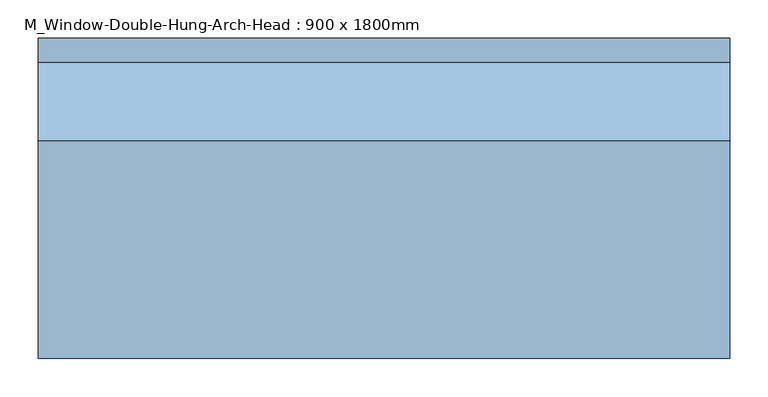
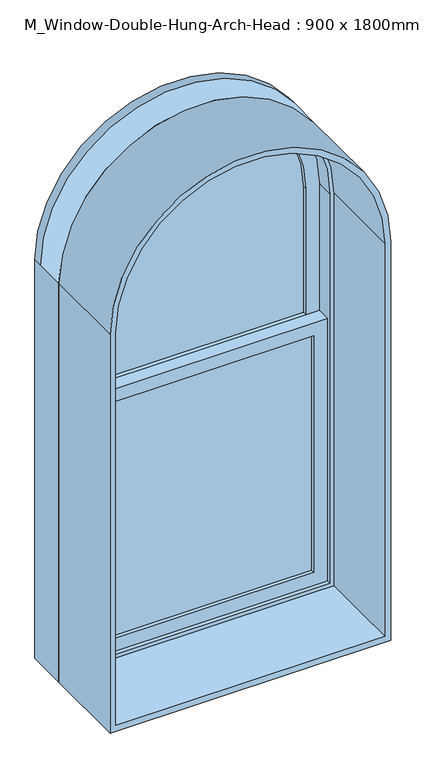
"""IFC4 building model written with IfcOpenShell, lengths in millimetres: window geometry, M_Window-Double-Hung-Arch-Head : 900 x 1800mm."""

from ifc_helpers import new_model, si_unit, point, frame, frame_2d, origin, place, context, project, spatial, polyline, circle_curve, trimmed, segment, composite_curve, outline, extrude, source, transform, mapped, element, save
from ifc_brep_helpers import plane_surface, cylinder_surface, revolved_surface, advanced_brep


def m_window_double_hung_arch_head_900_x_1800mm_510cd141(model_context):
    return source(origin(), model_context, "Body", "SolidModel", [
        advanced_brep(
        [(-418.25, 186.3, 2264.4), (-418.25, 186.3, 1792.175), (-418.25, 141.85, 1792.175), (-418.25, 141.85, 2264.4), (-418.25, 173.6, 2264.4), (-373.8, 141.85, 2264.4), (-373.8, 141.85, 1836.625), (-373.8, 186.3, 1836.625), (-373.8, 186.3, 2264.4), (-373.8, 173.6, 2264.4), (418.25, 186.3, 1792.175), (418.25, 141.85, 1792.175), (373.8, 141.85, 1836.625), (373.8, 186.3, 1836.625), (418.25, 186.3, 2264.4), (418.25, 173.6, 2264.4), (418.25, 141.85, 2264.4), (373.8, 141.85, 2264.4), (373.8, 173.6, 2264.4), (373.8, 186.3, 2264.4), (0.0, 173.6, 2682.65)],
        [
            (0, 1),
            (1, 2),
            (2, 3),
            (3, 4),
            (4, 0),
            (5, 6),
            (6, 7),
            (7, 8),
            (8, 9),
            (9, 5),
            (1, 10),
            (10, 11),
            (11, 2),
            (6, 12),
            (12, 13),
            (13, 7),
            (10, 14),
            (14, 15),
            (15, 16),
            (16, 11),
            (12, 17),
            (17, 18),
            (18, 19),
            (19, 13),
            (0, 14, circle_curve(frame((0.0, 186.3, 2264.4), z_axis=(0.0, 1.0, 0.0), x_axis=(-1.0, 0.0, 0.0)), 418.25)),
            (19, 8, circle_curve(frame((0.0, 186.3, 2264.4), z_axis=(0.0, -1.0, 0.0), x_axis=(-1.0, 0.0, 0.0)), 373.8)),
            (3, 16, circle_curve(frame((0.0, 141.85, 2264.4), z_axis=(0.0, 1.0, 0.0), x_axis=(1.0, 0.0, 0.0)), 418.25)),
            (15, 20, circle_curve(frame((0.0, 173.6, 2264.4), z_axis=(0.0, -1.0, 0.0), x_axis=(1.0, 0.0, 0.0)), 418.25)),
            (20, 4, circle_curve(frame((0.0, 173.6, 2264.4), z_axis=(0.0, -1.0, 0.0), x_axis=(1.0, 0.0, 0.0)), 418.25)),
            (5, 17, circle_curve(frame((0.0, 141.85, 2264.4), z_axis=(0.0, 1.0, 0.0), x_axis=(1.0, 0.0, 0.0)), 373.8)),
            (9, 18, circle_curve(frame((0.0, 173.6, 2264.4), z_axis=(0.0, 1.0, 0.0), x_axis=(1.0, 0.0, 0.0)), 373.8)),
        ],
        [
            plane_surface(frame((-418.25, 186.3, 2264.4), z_axis=(-1.0, 0.0, 0.0), x_axis=(0.0, 0.0, -1.0))),
            plane_surface(frame((-373.8, 141.85, 2264.4), z_axis=(1.0, 0.0, 0.0), x_axis=(0.0, 0.0, -1.0))),
            plane_surface(frame((-418.25, 186.3, 1792.175), z_axis=(0.0, 0.0, -1.0), x_axis=(1.0, 0.0, 0.0))),
            plane_surface(frame((-373.8, 141.85, 1836.625), z_axis=(0.0, 0.0, 1.0), x_axis=(1.0, 0.0, 0.0))),
            plane_surface(frame((418.25, 186.3, 1792.175), z_axis=(1.0, 0.0, 0.0), x_axis=(0.0, 0.0, 1.0))),
            plane_surface(frame((373.8, 141.85, 1836.625), z_axis=(-1.0, 0.0, 0.0), x_axis=(0.0, 0.0, 1.0))),
            plane_surface(frame((0.0, 186.3, 2264.4), z_axis=(0.0, 1.0, 0.0), x_axis=(1.0, 0.0, 0.0))),
            cylinder_surface(frame((0.0, 186.3, 2264.4), z_axis=(0.0, -1.0, 0.0), x_axis=(1.0, 0.0, 0.0)), 418.25),
            plane_surface(frame((0.0, 141.85, 2264.4), z_axis=(0.0, -1.0, 0.0), x_axis=(1.0, 0.0, 0.0))),
            revolved_surface(polyline([(373.8, 141.85, 2264.4), (373.8, 173.6, 2264.4)]), (0.0, 186.3, 2264.4), (0.0, -1.0, 0.0)),
            cylinder_surface(frame((0.0, 186.3, 2264.4), z_axis=(0.0, 1.0, 0.0), x_axis=(-1.0, 0.0, 0.0)), 418.25),
            revolved_surface(polyline([(-373.8, 186.3, 2264.4), (-373.8, 173.6, 2264.4)]), (0.0, 186.3, 2264.4), (0.0, 1.0, 0.0)),
        ],
        [
            (0, [[1, 2, 3, 4, 5]]),
            (1, [[6, 7, 8, 9, 10]]),
            (2, [[-2, 11, 12, 13]]),
            (3, [[-7, 14, 15, 16]]),
            (4, [[-12, 17, 18, 19, 20]]),
            (5, [[-15, 21, 22, 23, 24]]),
            (6, [[-1, 25, -17, -11], [-24, 26, -8, -16]]),
            (7, [[27, -19, 28, 29, -4]]),
            (8, [[-3, -13, -20, -27], [-6, 30, -21, -14]]),
            (9, [[-30, -10, 31, -22]]),
            (10, [[-25, -5, -29, -28, -18]]),
            (11, [[-26, -23, -31, -9]]),
        ],
    ),
        advanced_brep(
        [(-450.0, 218.05, 2264.4), (-450.0, 218.05, 914.4), (-450.0, 84.7, 914.4), (-450.0, 84.7, 2264.4), (-450.0, 186.3, 2264.4), (-418.25, 84.7, 2264.4), (-418.25, 84.7, 946.15), (-418.25, 218.05, 946.15), (-418.25, 218.05, 2264.4), (-418.25, 186.3, 2264.4), (450.0, 218.05, 914.4), (450.0, 84.7, 914.4), (418.25, 84.7, 946.15), (418.25, 218.05, 946.15), (450.0, 218.05, 2264.4), (450.0, 186.3, 2264.4), (450.0, 84.7, 2264.4), (418.25, 84.7, 2264.4), (418.25, 186.3, 2264.4), (418.25, 218.05, 2264.4), (0.0, 186.3, 2714.4)],
        [
            (0, 1),
            (1, 2),
            (2, 3),
            (3, 4),
            (4, 0),
            (5, 6),
            (6, 7),
            (7, 8),
            (8, 9),
            (9, 5),
            (1, 10),
            (10, 11),
            (11, 2),
            (6, 12),
            (12, 13),
            (13, 7),
            (10, 14),
            (14, 15),
            (15, 16),
            (16, 11),
            (12, 17),
            (17, 18),
            (18, 19),
            (19, 13),
            (3, 16, circle_curve(frame((0.0, 84.7, 2264.4), z_axis=(0.0, 1.0, 0.0), x_axis=(1.0, 0.0, 0.0)), 450.0)),
            (15, 20, circle_curve(frame((0.0, 186.3, 2264.4), z_axis=(0.0, -1.0, 0.0), x_axis=(1.0, 0.0, 0.0)), 450.0)),
            (20, 4, circle_curve(frame((0.0, 186.3, 2264.4), z_axis=(0.0, -1.0, 0.0), x_axis=(1.0, 0.0, 0.0)), 450.0)),
            (5, 17, circle_curve(frame((0.0, 84.7, 2264.4), z_axis=(0.0, 1.0, 0.0), x_axis=(1.0, 0.0, 0.0)), 418.25)),
            (9, 18, circle_curve(frame((0.0, 186.3, 2264.4), z_axis=(0.0, 1.0, 0.0), x_axis=(1.0, 0.0, 0.0)), 418.25)),
            (0, 14, circle_curve(frame((0.0, 218.05, 2264.4), z_axis=(0.0, 1.0, 0.0), x_axis=(-1.0, 0.0, 0.0)), 450.0)),
            (19, 8, circle_curve(frame((0.0, 218.05, 2264.4), z_axis=(0.0, -1.0, 0.0), x_axis=(-1.0, 0.0, 0.0)), 418.25)),
        ],
        [
            plane_surface(frame((-450.0, 218.05, 2264.4), z_axis=(-1.0, 0.0, 0.0), x_axis=(0.0, 0.0, -1.0))),
            plane_surface(frame((-418.25, 84.7, 2264.4), z_axis=(1.0, 0.0, 0.0), x_axis=(0.0, 0.0, -1.0))),
            plane_surface(frame((-450.0, 218.05, 914.4), z_axis=(0.0, 0.0, -1.0), x_axis=(1.0, 0.0, 0.0))),
            plane_surface(frame((-418.25, 84.7, 946.15), z_axis=(0.0, 0.0, 1.0), x_axis=(1.0, 0.0, 0.0))),
            plane_surface(frame((450.0, 218.05, 914.4), z_axis=(1.0, 0.0, 0.0), x_axis=(0.0, 0.0, 1.0))),
            plane_surface(frame((418.25, 84.7, 946.15), z_axis=(-1.0, 0.0, 0.0), x_axis=(0.0, 0.0, 1.0))),
            cylinder_surface(frame((0.0, 186.3, 2264.4), z_axis=(0.0, -1.0, 0.0), x_axis=(1.0, 0.0, 0.0)), 450.0),
            plane_surface(frame((0.0, 84.7, 2264.4), z_axis=(0.0, -1.0, 0.0), x_axis=(1.0, 0.0, 0.0))),
            revolved_surface(polyline([(418.25, 84.7, 2264.4), (418.25, 186.3, 2264.4)]), (0.0, 186.3, 2264.4), (0.0, -1.0, 0.0)),
            plane_surface(frame((0.0, 218.05, 2264.4), z_axis=(0.0, 1.0, 0.0), x_axis=(1.0, 0.0, 0.0))),
            cylinder_surface(frame((0.0, 218.05, 2264.4), z_axis=(0.0, 1.0, 0.0), x_axis=(-1.0, 0.0, 0.0)), 450.0),
            revolved_surface(polyline([(-418.25, 218.05, 2264.4), (-418.25, 186.3, 2264.4)]), (0.0, 218.05, 2264.4), (0.0, 1.0, 0.0)),
        ],
        [
            (0, [[1, 2, 3, 4, 5]]),
            (1, [[6, 7, 8, 9, 10]]),
            (2, [[-2, 11, 12, 13]]),
            (3, [[-7, 14, 15, 16]]),
            (4, [[-12, 17, 18, 19, 20]]),
            (5, [[-15, 21, 22, 23, 24]]),
            (6, [[25, -19, 26, 27, -4]]),
            (7, [[-3, -13, -20, -25], [-6, 28, -21, -14]]),
            (8, [[-28, -10, 29, -22]]),
            (9, [[-1, 30, -17, -11], [-24, 31, -8, -16]]),
            (10, [[-30, -5, -27, -26, -18]]),
            (11, [[-31, -23, -29, -9]]),
        ],
    ),
        extrude(outline(composite_curve([segment(polyline([(2264.4, -373.8), (1836.625, -373.8), (1836.625, 373.8), (2264.4, 373.8)]), True, "CONTINUOUS"), segment(trimmed(circle_curve(frame_2d((2264.4, 0.0)), 373.8), [point((2264.4, 373.8))], [point((2264.4, -373.8))], False, "CARTESIAN"), True, "CONTINUOUS")], self_intersect=False)), frame((0.0, 154.55, 0.0), z_axis=(0.0, 1.0, 0.0), x_axis=(0.0, 0.0, 1.0)), (0.0, 0.0, 1.0), 6.35),
        extrude(outline(composite_curve([segment(polyline([(2264.4, -373.8), (1836.625, -373.8), (1836.625, 373.8), (2264.4, 373.8)]), True, "CONTINUOUS"), segment(trimmed(circle_curve(frame_2d((2264.4, 0.0)), 373.8), [point((2264.4, 373.8))], [point((2264.4, -373.8))], False, "CARTESIAN"), True, "CONTINUOUS")], self_intersect=False)), frame((0.0, 167.25, 0.0), z_axis=(0.0, 1.0, 0.0), x_axis=(0.0, 0.0, 1.0)), (0.0, 0.0, 1.0), 6.35),
        extrude(outline(polyline([(373.8, 129.15), (373.8, 122.8), (-373.8, 122.8), (-373.8, 129.15), (373.8, 129.15)])), frame((0.0, 0.0, 990.6), z_axis=(0.0, 0.0, 1.0), x_axis=(1.0, 0.0, 0.0)), (0.0, 0.0, 1.0), 801.575),
        extrude(outline(polyline([(-373.8, 116.45), (373.8, 116.45), (373.8, 110.1), (-373.8, 110.1), (-373.8, 116.45)])), frame((0.0, 0.0, 990.6), z_axis=(0.0, 0.0, 1.0), x_axis=(1.0, 0.0, 0.0)), (0.0, 0.0, 1.0), 801.575),
        extrude(outline(polyline([(1836.625, -418.25), (946.15, -418.25), (946.15, 418.25), (1836.625, 418.25), (1836.625, -418.25)]), holes=[polyline([(1792.175, 373.8), (990.6, 373.8), (990.6, -373.8), (1792.175, -373.8), (1792.175, 373.8)])]), frame((0.0, 97.4, 0.0), z_axis=(0.0, 1.0, 0.0), x_axis=(0.0, 0.0, 1.0)), (0.0, 0.0, 1.0), 44.45),
        extrude(outline(composite_curve([segment(polyline([(2264.4, -450.0), (914.4, -450.0), (914.4, 450.0), (2264.4, 450.0)]), True, "CONTINUOUS"), segment(trimmed(circle_curve(frame_2d((2264.4, 0.0)), 450.0), [point((2264.4, 450.0))], [point((2264.4, -450.0))], False, "CARTESIAN"), True, "CONTINUOUS")], self_intersect=False), holes=[composite_curve([segment(trimmed(circle_curve(frame_2d((2264.4, 0.0)), 430.95), [point((2264.4, -430.95))], [point((2264.4, 430.95))], True, "CARTESIAN"), True, "CONTINUOUS"), segment(polyline([(2264.4, 430.95), (933.45, 430.95), (933.45, -430.95), (2264.4, -430.95)]), True, "CONTINUOUS")], self_intersect=False)]), frame((0.0, -199.0, 0.0), z_axis=(0.0, 1.0, 0.0), x_axis=(0.0, 0.0, 1.0)), (0.0, 0.0, 1.0), 283.7),
    ])


if __name__ == "__main__":
    model = new_model("IFC4")
    model_context = context("Model", 3, world=origin())
    ifc_project = project(units=[si_unit("LENGTHUNIT", "METRE", prefix="MILLI")], contexts=[model_context])
    site = spatial("IfcSite", under=ifc_project)
    building = spatial("IfcBuilding", under=site)
    placement = place(None, origin())
    m_window_double_hung_arch_head_900_x_1800mm_shape = m_window_double_hung_arch_head_900_x_1800mm_510cd141(model_context)
    element("IfcWindow", 1, ObjectType="M_Window-Double-Hung-Arch-Head : 900 x 1800mm", at=placement, inside=building, context=model_context, shape_type="MappedRepresentation", body=[
        mapped(m_window_double_hung_arch_head_900_x_1800mm_shape, transform((0.0, 0.0, 0.0), x_axis=(1.0, 0.0, 0.0), y_axis=(0.0, 1.0, 0.0), z_axis=(0.0, 0.0, 1.0))),
    ])
    save(model, "model.ifc")
